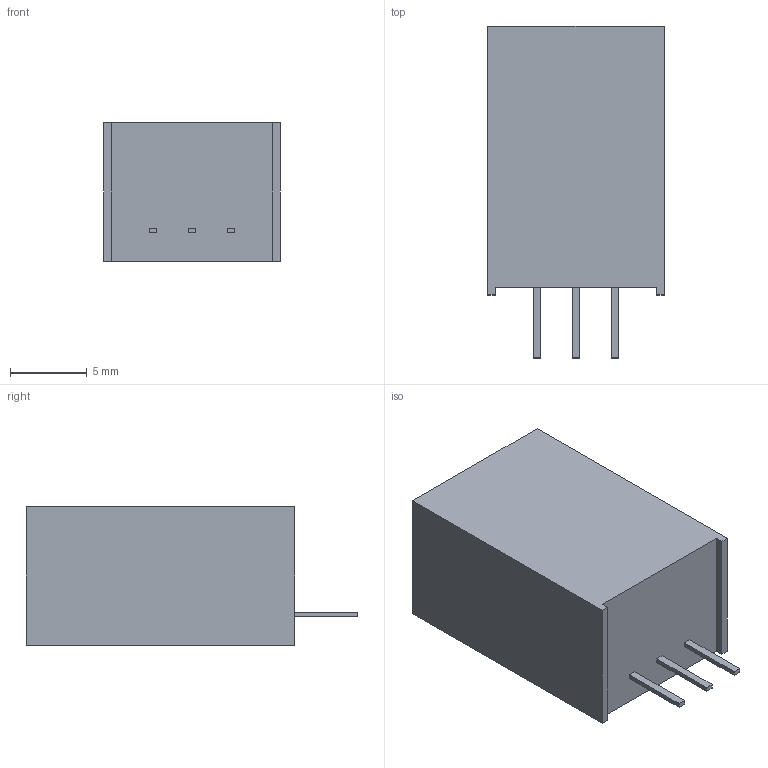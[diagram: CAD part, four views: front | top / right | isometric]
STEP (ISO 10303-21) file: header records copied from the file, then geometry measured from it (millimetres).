
FILE_DESCRIPTION(/* description */ (''),/* implementation_level */ '2;1');
FILE_NAME(/* name */ 'K78XX-1000R3.stp',/* time_stamp */ '2025-07-15T09:19:25+08:00',/* author */ (''),/* organization */ (''),/* preprocessor_version */ 'ST-DEVELOPER v16',/* originating_system */ 'SIEMENS PLM Software NX 10.0',/* authorisation */ '123');
FILE_SCHEMA (('AUTOMOTIVE_DESIGN { 1 0 10303 214 3 1 1 1 }'));
Length unit declared in the file: millimetre
Products named in the file (1): admi5B74520Af1do
Bounding box: 11.5 x 21.6 x 9 mm (x, y, z)
Volume: 1766.1 mm3; surface area: 945.1 mm2
Topology: 1 solids, 1 shells, 25 faces, 60 edges, 40 vertices
Faces by surface type: plane 25
Entity records: 852 total; most frequent: CARTESIAN_POINT 126, ORIENTED_EDGE 120, DIRECTION 112, EDGE_CURVE 60, LINE 60, VECTOR 60, VERTEX_POINT 40, EDGE_LOOP 28
